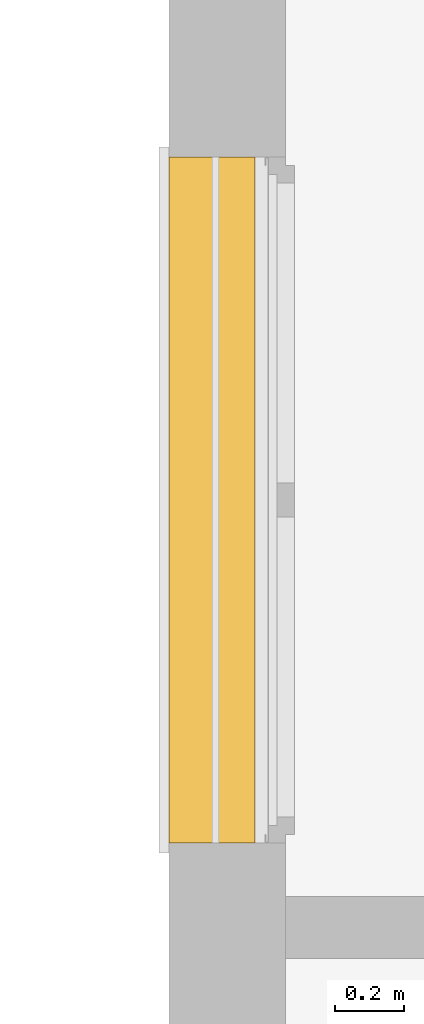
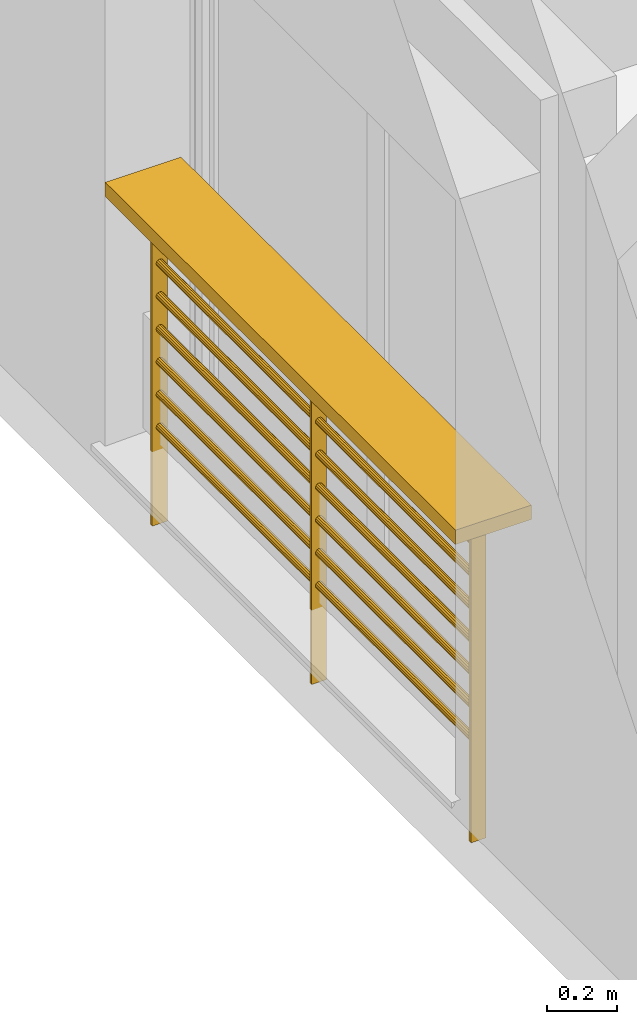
# One storey, part 119 of 171: 1 railing.
"""IFC2X3 building model written with IfcOpenShell, lengths in millimetres."""

from ifc_helpers import new_model, entity, si_unit, converted_unit, derived_unit, money_unit, direction, frame, origin_with_axes, place, context, subcontext, project, spatial, faceted_brep, source, transform, mapped, type_object, element, save


model = new_model("IFC2X3")

# Units and contexts
model_context = context("Model", 3, precision=0.01, world=origin_with_axes(), true_north=direction((0.0, 1.0)))
body_context = subcontext(model_context, "Body", "Model", "MODEL_VIEW")
ifc_project = project(units=[si_unit("LENGTHUNIT", "METRE", prefix="MILLI"), si_unit("AREAUNIT", "SQUARE_METRE"), si_unit("VOLUMEUNIT", "CUBIC_METRE"), converted_unit("PLANEANGLEUNIT", "DEGREE", entity("IfcPlaneAngleMeasure", 0.0174532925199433), si_unit("PLANEANGLEUNIT", "RADIAN"), dimensions=[0, 0, 0, 0, 0, 0, 0]), money_unit("USD"), converted_unit("TIMEUNIT", "Year", entity("IfcTimeMeasure", 31557600.0), si_unit("TIMEUNIT", "SECOND"), dimensions=[0, 0, 1, 0, 0, 0, 0]), si_unit("MASSUNIT", "GRAM", prefix="KILO"), si_unit("THERMODYNAMICTEMPERATUREUNIT", "DEGREE_CELSIUS"), si_unit("LUMINOUSINTENSITYUNIT", "LUMEN"), si_unit("ENERGYUNIT", "JOULE", prefix="MEGA"), derived_unit("THERMALCONDUCTANCEUNIT", [(si_unit("POWERUNIT", "WATT"), 1), (si_unit("LENGTHUNIT", "METRE"), -1), (si_unit("THERMODYNAMICTEMPERATUREUNIT", "KELVIN"), -1)]), derived_unit("SPECIFICHEATCAPACITYUNIT", [(si_unit("ENERGYUNIT", "JOULE"), 1), (si_unit("MASSUNIT", "GRAM", prefix="KILO"), -1), (si_unit("THERMODYNAMICTEMPERATUREUNIT", "KELVIN"), -1)]), derived_unit("MASSDENSITYUNIT", [(si_unit("MASSUNIT", "GRAM", prefix="KILO"), 1), (si_unit("VOLUMEUNIT", "CUBIC_METRE"), -1)])], contexts=[model_context])

# Site, building, storey
site_placement = place(None, origin_with_axes())
site = spatial("IfcSite", under=ifc_project, at=site_placement, Name="Site", CompositionType="ELEMENT")
building_placement = place(site_placement, origin_with_axes())
building = spatial("IfcBuilding", under=site, at=building_placement, Name="Bâtiment", CompositionType="ELEMENT")
storey_placement = place(building_placement, frame((0.0, 0.0, 3000.0), z_axis=(0.0, 0.0, 1.0), x_axis=(1.0, 0.0, 0.0)))
storey = spatial("IfcBuildingStorey", under=building, at=storey_placement, Name="rdc", CompositionType="ELEMENT", Elevation=3000.0)

# Railing
railing_type = type_object("IfcRailingType", Name="Cadre avec câble 01 20", PredefinedType="NOTDEFINED")
shared_shape = source(origin_with_axes(), body_context, "Body", "Brep", [
    faceted_brep([(0.0, 125.0, 950.0), (0.0, -125.0, 950.0), (0.0, -125.0, 1000.0), (0.0, 125.0, 1000.0), (1999.999999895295, 125.0, 950.0), (1999.999999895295, -125.0, 950.0), (1999.999999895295, -125.0, 1000.0), (1999.999999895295, 125.0, 1000.0)], [[[0, 1, 2, 3]], [[0, 4, 5, 1]], [[1, 5, 6, 2]], [[3, 2, 6, 7]], [[4, 0, 3, 7]], [[5, 4, 7, 6]]]),
    faceted_brep([(84.99999999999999, -25.0, -176.0), (95.0, -25.0, -176.0), (95.0, -25.0, 950.0), (84.99999999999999, -25.0, 950.0), (84.99999999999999, 25.0, -176.0), (95.0, 25.0, -176.0), (95.0, 25.0, 950.0), (84.99999999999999, 25.0, 950.0)], [[[0, 1, 2, 3]], [[0, 4, 5, 1]], [[1, 5, 6, 2]], [[3, 2, 6, 7]], [[4, 0, 3, 7]], [[5, 4, 7, 6]]]),
    faceted_brep([(994.9999999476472, -25.0, -176.0), (1004.999999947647, -25.0, -176.0), (1004.999999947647, -25.0, 950.0), (994.9999999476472, -25.0, 950.0), (994.9999999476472, 25.0, -176.0), (1004.999999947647, 25.0, -176.0), (1004.999999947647, 25.0, 950.0), (994.9999999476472, 25.0, 950.0)], [[[0, 1, 2, 3]], [[0, 4, 5, 1]], [[1, 5, 6, 2]], [[3, 2, 6, 7]], [[4, 0, 3, 7]], [[5, 4, 7, 6]]]),
    faceted_brep([(1904.999999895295, -25.0, -176.0), (1914.999999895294, -25.0, -176.0), (1914.999999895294, -25.0, 950.0), (1904.999999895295, -25.0, 950.0), (1904.999999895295, 25.0, -176.0), (1914.999999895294, 25.0, -176.0), (1914.999999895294, 25.0, 950.0), (1904.999999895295, 25.0, 950.0)], [[[0, 1, 2, 3]], [[0, 4, 5, 1]], [[1, 5, 6, 2]], [[3, 2, 6, 7]], [[4, 0, 3, 7]], [[5, 4, 7, 6]]]),
    faceted_brep([(994.9999999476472, 10.82531754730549, 168.7500000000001), (994.9999999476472, 12.5, 162.5000000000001), (95.0, 12.5, 162.5), (95.0, 10.82531754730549, 168.75), (994.9999999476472, 10.82531754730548, 156.2500000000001), (994.9999999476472, 6.250000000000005, 173.3253175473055), (994.9999999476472, 0.0, 175.0000000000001), (994.9999999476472, -6.249999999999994, 173.3253175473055), (994.9999999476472, -10.82531754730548, 168.7500000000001), (994.9999999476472, -12.5, 162.5000000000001), (994.9999999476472, -10.82531754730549, 156.2500000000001), (994.9999999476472, -6.250000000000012, 151.6746824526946), (994.9999999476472, 0.0, 150.0000000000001), (994.9999999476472, 6.249999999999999, 151.6746824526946), (95.0, 10.82531754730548, 156.25), (95.0, 6.249999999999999, 151.6746824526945), (95.0, 0.0, 150.0), (95.0, -6.250000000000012, 151.6746824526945), (95.0, -10.82531754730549, 156.25), (95.0, -12.5, 162.5), (95.0, -10.82531754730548, 168.75), (95.0, -6.249999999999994, 173.3253175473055), (95.0, 0.0, 175.0), (95.0, 6.250000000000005, 173.3253175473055)], [[[0, 1, 2, 3]], [[4, 1, 0, 5, 6, 7, 8, 9, 10, 11, 12, 13]], [[1, 4, 14, 2]], [[3, 2, 14, 15, 16, 17, 18, 19, 20, 21, 22, 23]], [[5, 0, 3, 23]], [[6, 5, 23, 22]], [[7, 6, 22, 21]], [[8, 7, 21, 20]], [[9, 8, 20, 19]], [[10, 9, 19, 18]], [[11, 10, 18, 17]], [[12, 11, 17, 16]], [[13, 12, 16, 15]], [[4, 13, 15, 14]]]),
    faceted_brep([(1004.999999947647, 10.82531754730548, 156.2500000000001), (1004.999999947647, 12.5, 162.5000000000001), (1904.999999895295, 12.5, 162.5000000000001), (1904.999999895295, 10.82531754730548, 156.2500000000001), (1004.999999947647, 10.82531754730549, 168.7500000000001), (1004.999999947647, 6.249999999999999, 151.6746824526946), (1004.999999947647, 0.0, 150.0000000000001), (1004.999999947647, -6.250000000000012, 151.6746824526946), (1004.999999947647, -10.82531754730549, 156.2500000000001), (1004.999999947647, -12.5, 162.5000000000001), (1004.999999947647, -10.82531754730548, 168.7500000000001), (1004.999999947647, -6.249999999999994, 173.3253175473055), (1004.999999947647, 0.0, 175.0000000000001), (1004.999999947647, 6.250000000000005, 173.3253175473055), (1904.999999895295, 10.82531754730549, 168.7500000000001), (1904.999999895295, 6.250000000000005, 173.3253175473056), (1904.999999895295, 0.0, 175.0000000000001), (1904.999999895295, -6.249999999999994, 173.3253175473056), (1904.999999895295, -10.82531754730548, 168.7500000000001), (1904.999999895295, -12.5, 162.5000000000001), (1904.999999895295, -10.82531754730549, 156.2500000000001), (1904.999999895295, -6.250000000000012, 151.6746824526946), (1904.999999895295, 0.0, 150.0000000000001), (1904.999999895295, 6.249999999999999, 151.6746824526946)], [[[0, 1, 2, 3]], [[4, 1, 0, 5, 6, 7, 8, 9, 10, 11, 12, 13]], [[1, 4, 14, 2]], [[3, 2, 14, 15, 16, 17, 18, 19, 20, 21, 22, 23]], [[5, 0, 3, 23]], [[6, 5, 23, 22]], [[7, 6, 22, 21]], [[8, 7, 21, 20]], [[9, 8, 20, 19]], [[10, 9, 19, 18]], [[11, 10, 18, 17]], [[12, 11, 17, 16]], [[13, 12, 16, 15]], [[4, 13, 15, 14]]]),
    faceted_brep([(994.9999999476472, 10.82531754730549, 283.0357142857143), (994.9999999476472, 12.5, 276.7857142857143), (95.0, 12.5, 276.7857142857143), (95.0, 10.82531754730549, 283.0357142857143), (994.9999999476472, 10.82531754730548, 270.5357142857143), (994.9999999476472, 6.250000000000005, 287.6110318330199), (994.9999999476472, 0.0, 289.2857142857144), (994.9999999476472, -6.249999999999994, 287.6110318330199), (994.9999999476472, -10.82531754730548, 283.0357142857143), (994.9999999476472, -12.5, 276.7857142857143), (994.9999999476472, -10.82531754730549, 270.5357142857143), (994.9999999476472, -6.250000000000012, 265.9603967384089), (994.9999999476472, 0.0, 264.2857142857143), (994.9999999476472, 6.249999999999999, 265.9603967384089), (95.0, 10.82531754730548, 270.5357142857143), (95.0, 6.249999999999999, 265.9603967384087), (95.0, 0.0, 264.2857142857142), (95.0, -6.250000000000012, 265.9603967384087), (95.0, -10.82531754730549, 270.5357142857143), (95.0, -12.5, 276.7857142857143), (95.0, -10.82531754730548, 283.0357142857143), (95.0, -6.249999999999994, 287.6110318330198), (95.0, 0.0, 289.2857142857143), (95.0, 6.250000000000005, 287.6110318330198)], [[[0, 1, 2, 3]], [[4, 1, 0, 5, 6, 7, 8, 9, 10, 11, 12, 13]], [[1, 4, 14, 2]], [[3, 2, 14, 15, 16, 17, 18, 19, 20, 21, 22, 23]], [[5, 0, 3, 23]], [[6, 5, 23, 22]], [[7, 6, 22, 21]], [[8, 7, 21, 20]], [[9, 8, 20, 19]], [[10, 9, 19, 18]], [[11, 10, 18, 17]], [[12, 11, 17, 16]], [[13, 12, 16, 15]], [[4, 13, 15, 14]]]),
    faceted_brep([(1004.999999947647, 10.82531754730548, 270.5357142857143), (1004.999999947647, 12.5, 276.7857142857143), (1904.999999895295, 12.5, 276.7857142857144), (1904.999999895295, 10.82531754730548, 270.5357142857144), (1004.999999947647, 10.82531754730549, 283.0357142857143), (1004.999999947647, 6.249999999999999, 265.9603967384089), (1004.999999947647, 0.0, 264.2857142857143), (1004.999999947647, -6.250000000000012, 265.9603967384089), (1004.999999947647, -10.82531754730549, 270.5357142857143), (1004.999999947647, -12.5, 276.7857142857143), (1004.999999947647, -10.82531754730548, 283.0357142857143), (1004.999999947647, -6.249999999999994, 287.6110318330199), (1004.999999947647, 0.0, 289.2857142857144), (1004.999999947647, 6.250000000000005, 287.6110318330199), (1904.999999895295, 10.82531754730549, 283.0357142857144), (1904.999999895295, 6.250000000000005, 287.6110318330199), (1904.999999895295, 0.0, 289.2857142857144), (1904.999999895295, -6.249999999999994, 287.6110318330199), (1904.999999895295, -10.82531754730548, 283.0357142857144), (1904.999999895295, -12.5, 276.7857142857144), (1904.999999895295, -10.82531754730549, 270.5357142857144), (1904.999999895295, -6.250000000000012, 265.9603967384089), (1904.999999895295, 0.0, 264.2857142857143), (1904.999999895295, 6.249999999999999, 265.9603967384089)], [[[0, 1, 2, 3]], [[4, 1, 0, 5, 6, 7, 8, 9, 10, 11, 12, 13]], [[1, 4, 14, 2]], [[3, 2, 14, 15, 16, 17, 18, 19, 20, 21, 22, 23]], [[5, 0, 3, 23]], [[6, 5, 23, 22]], [[7, 6, 22, 21]], [[8, 7, 21, 20]], [[9, 8, 20, 19]], [[10, 9, 19, 18]], [[11, 10, 18, 17]], [[12, 11, 17, 16]], [[13, 12, 16, 15]], [[4, 13, 15, 14]]]),
    faceted_brep([(994.9999999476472, 10.82531754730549, 397.3214285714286), (994.9999999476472, 12.5, 391.0714285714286), (95.0, 12.5, 391.0714285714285), (95.0, 10.82531754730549, 397.3214285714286), (994.9999999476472, 10.82531754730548, 384.8214285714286), (994.9999999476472, 6.250000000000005, 401.896746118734), (994.9999999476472, 0.0, 403.5714285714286), (994.9999999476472, -6.249999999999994, 401.896746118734), (994.9999999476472, -10.82531754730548, 397.3214285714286), (994.9999999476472, -12.5, 391.0714285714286), (994.9999999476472, -10.82531754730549, 384.8214285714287), (994.9999999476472, -6.250000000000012, 380.2461110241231), (994.9999999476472, 0.0, 378.5714285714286), (994.9999999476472, 6.249999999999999, 380.2461110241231), (95.0, 10.82531754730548, 384.8214285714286), (95.0, 6.249999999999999, 380.2461110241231), (95.0, 0.0, 378.5714285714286), (95.0, -6.250000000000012, 380.2461110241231), (95.0, -10.82531754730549, 384.8214285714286), (95.0, -12.5, 391.0714285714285), (95.0, -10.82531754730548, 397.3214285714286), (95.0, -6.249999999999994, 401.896746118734), (95.0, 0.0, 403.5714285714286), (95.0, 6.250000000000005, 401.896746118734)], [[[0, 1, 2, 3]], [[4, 1, 0, 5, 6, 7, 8, 9, 10, 11, 12, 13]], [[1, 4, 14, 2]], [[3, 2, 14, 15, 16, 17, 18, 19, 20, 21, 22, 23]], [[5, 0, 3, 23]], [[6, 5, 23, 22]], [[7, 6, 22, 21]], [[8, 7, 21, 20]], [[9, 8, 20, 19]], [[10, 9, 19, 18]], [[11, 10, 18, 17]], [[12, 11, 17, 16]], [[13, 12, 16, 15]], [[4, 13, 15, 14]]]),
    faceted_brep([(1004.999999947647, 10.82531754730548, 384.8214285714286), (1004.999999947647, 12.5, 391.0714285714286), (1904.999999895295, 12.5, 391.0714285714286), (1904.999999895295, 10.82531754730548, 384.8214285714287), (1004.999999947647, 10.82531754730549, 397.3214285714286), (1004.999999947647, 6.249999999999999, 380.2461110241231), (1004.999999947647, 0.0, 378.5714285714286), (1004.999999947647, -6.250000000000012, 380.2461110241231), (1004.999999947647, -10.82531754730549, 384.8214285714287), (1004.999999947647, -12.5, 391.0714285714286), (1004.999999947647, -10.82531754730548, 397.3214285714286), (1004.999999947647, -6.249999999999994, 401.896746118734), (1004.999999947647, 0.0, 403.5714285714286), (1004.999999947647, 6.250000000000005, 401.896746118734), (1904.999999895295, 10.82531754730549, 397.3214285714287), (1904.999999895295, 6.250000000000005, 401.8967461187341), (1904.999999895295, 0.0, 403.5714285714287), (1904.999999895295, -6.249999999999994, 401.8967461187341), (1904.999999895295, -10.82531754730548, 397.3214285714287), (1904.999999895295, -12.5, 391.0714285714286), (1904.999999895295, -10.82531754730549, 384.8214285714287), (1904.999999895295, -6.250000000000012, 380.2461110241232), (1904.999999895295, 0.0, 378.5714285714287), (1904.999999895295, 6.249999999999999, 380.2461110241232)], [[[0, 1, 2, 3]], [[4, 1, 0, 5, 6, 7, 8, 9, 10, 11, 12, 13]], [[1, 4, 14, 2]], [[3, 2, 14, 15, 16, 17, 18, 19, 20, 21, 22, 23]], [[5, 0, 3, 23]], [[6, 5, 23, 22]], [[7, 6, 22, 21]], [[8, 7, 21, 20]], [[9, 8, 20, 19]], [[10, 9, 19, 18]], [[11, 10, 18, 17]], [[12, 11, 17, 16]], [[13, 12, 16, 15]], [[4, 13, 15, 14]]]),
    faceted_brep([(994.9999999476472, 10.82531754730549, 511.6071428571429), (994.9999999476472, 12.5, 505.3571428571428), (95.0, 12.5, 505.3571428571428), (95.0, 10.82531754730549, 511.6071428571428), (994.9999999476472, 10.82531754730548, 499.1071428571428), (994.9999999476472, 6.250000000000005, 516.1824604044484), (994.9999999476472, 0.0, 517.8571428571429), (994.9999999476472, -6.249999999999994, 516.1824604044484), (994.9999999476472, -10.82531754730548, 511.6071428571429), (994.9999999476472, -12.5, 505.3571428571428), (994.9999999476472, -10.82531754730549, 499.1071428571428), (994.9999999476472, -6.250000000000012, 494.5318253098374), (994.9999999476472, 0.0, 492.8571428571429), (994.9999999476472, 6.249999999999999, 494.5318253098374), (95.0, 10.82531754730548, 499.1071428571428), (95.0, 6.249999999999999, 494.5318253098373), (95.0, 0.0, 492.8571428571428), (95.0, -6.250000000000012, 494.5318253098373), (95.0, -10.82531754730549, 499.1071428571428), (95.0, -12.5, 505.3571428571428), (95.0, -10.82531754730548, 511.6071428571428), (95.0, -6.249999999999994, 516.1824604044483), (95.0, 0.0, 517.8571428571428), (95.0, 6.250000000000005, 516.1824604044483)], [[[0, 1, 2, 3]], [[4, 1, 0, 5, 6, 7, 8, 9, 10, 11, 12, 13]], [[1, 4, 14, 2]], [[3, 2, 14, 15, 16, 17, 18, 19, 20, 21, 22, 23]], [[5, 0, 3, 23]], [[6, 5, 23, 22]], [[7, 6, 22, 21]], [[8, 7, 21, 20]], [[9, 8, 20, 19]], [[10, 9, 19, 18]], [[11, 10, 18, 17]], [[12, 11, 17, 16]], [[13, 12, 16, 15]], [[4, 13, 15, 14]]]),
    faceted_brep([(1004.999999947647, 10.82531754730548, 499.1071428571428), (1004.999999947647, 12.5, 505.3571428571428), (1904.999999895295, 12.5, 505.3571428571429), (1904.999999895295, 10.82531754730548, 499.1071428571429), (1004.999999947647, 10.82531754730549, 511.6071428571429), (1004.999999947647, 6.249999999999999, 494.5318253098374), (1004.999999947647, 0.0, 492.8571428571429), (1004.999999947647, -6.250000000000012, 494.5318253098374), (1004.999999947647, -10.82531754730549, 499.1071428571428), (1004.999999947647, -12.5, 505.3571428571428), (1004.999999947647, -10.82531754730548, 511.6071428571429), (1004.999999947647, -6.249999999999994, 516.1824604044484), (1004.999999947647, 0.0, 517.8571428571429), (1004.999999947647, 6.250000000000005, 516.1824604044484), (1904.999999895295, 10.82531754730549, 511.6071428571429), (1904.999999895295, 6.250000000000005, 516.1824604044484), (1904.999999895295, 0.0, 517.8571428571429), (1904.999999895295, -6.249999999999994, 516.1824604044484), (1904.999999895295, -10.82531754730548, 511.6071428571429), (1904.999999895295, -12.5, 505.3571428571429), (1904.999999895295, -10.82531754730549, 499.1071428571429), (1904.999999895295, -6.250000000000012, 494.5318253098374), (1904.999999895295, 0.0, 492.8571428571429), (1904.999999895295, 6.249999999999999, 494.5318253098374)], [[[0, 1, 2, 3]], [[4, 1, 0, 5, 6, 7, 8, 9, 10, 11, 12, 13]], [[1, 4, 14, 2]], [[3, 2, 14, 15, 16, 17, 18, 19, 20, 21, 22, 23]], [[5, 0, 3, 23]], [[6, 5, 23, 22]], [[7, 6, 22, 21]], [[8, 7, 21, 20]], [[9, 8, 20, 19]], [[10, 9, 19, 18]], [[11, 10, 18, 17]], [[12, 11, 17, 16]], [[13, 12, 16, 15]], [[4, 13, 15, 14]]]),
    faceted_brep([(994.9999999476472, 10.82531754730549, 625.8928571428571), (994.9999999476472, 12.5, 619.6428571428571), (95.0, 12.5, 619.642857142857), (95.0, 10.82531754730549, 625.892857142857), (994.9999999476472, 10.82531754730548, 613.3928571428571), (994.9999999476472, 6.250000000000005, 630.4681746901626), (994.9999999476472, 0.0, 632.1428571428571), (994.9999999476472, -6.249999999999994, 630.4681746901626), (994.9999999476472, -10.82531754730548, 625.8928571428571), (994.9999999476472, -12.5, 619.6428571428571), (994.9999999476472, -10.82531754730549, 613.3928571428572), (994.9999999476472, -6.250000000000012, 608.8175395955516), (994.9999999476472, 0.0, 607.1428571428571), (994.9999999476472, 6.249999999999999, 608.8175395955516), (95.0, 10.82531754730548, 613.3928571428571), (95.0, 6.249999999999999, 608.8175395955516), (95.0, 0.0, 607.1428571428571), (95.0, -6.250000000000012, 608.8175395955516), (95.0, -10.82531754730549, 613.3928571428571), (95.0, -12.5, 619.642857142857), (95.0, -10.82531754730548, 625.892857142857), (95.0, -6.249999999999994, 630.4681746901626), (95.0, 0.0, 632.1428571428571), (95.0, 6.250000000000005, 630.4681746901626)], [[[0, 1, 2, 3]], [[4, 1, 0, 5, 6, 7, 8, 9, 10, 11, 12, 13]], [[1, 4, 14, 2]], [[3, 2, 14, 15, 16, 17, 18, 19, 20, 21, 22, 23]], [[5, 0, 3, 23]], [[6, 5, 23, 22]], [[7, 6, 22, 21]], [[8, 7, 21, 20]], [[9, 8, 20, 19]], [[10, 9, 19, 18]], [[11, 10, 18, 17]], [[12, 11, 17, 16]], [[13, 12, 16, 15]], [[4, 13, 15, 14]]]),
    faceted_brep([(1004.999999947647, 10.82531754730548, 613.3928571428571), (1004.999999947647, 12.5, 619.6428571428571), (1904.999999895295, 12.5, 619.6428571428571), (1904.999999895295, 10.82531754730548, 613.3928571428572), (1004.999999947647, 10.82531754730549, 625.8928571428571), (1004.999999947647, 6.249999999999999, 608.8175395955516), (1004.999999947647, 0.0, 607.1428571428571), (1004.999999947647, -6.250000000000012, 608.8175395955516), (1004.999999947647, -10.82531754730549, 613.3928571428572), (1004.999999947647, -12.5, 619.6428571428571), (1004.999999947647, -10.82531754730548, 625.8928571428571), (1004.999999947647, -6.249999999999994, 630.4681746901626), (1004.999999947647, 0.0, 632.1428571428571), (1004.999999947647, 6.250000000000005, 630.4681746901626), (1904.999999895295, 10.82531754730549, 625.8928571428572), (1904.999999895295, 6.250000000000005, 630.4681746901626), (1904.999999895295, 0.0, 632.1428571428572), (1904.999999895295, -6.249999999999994, 630.4681746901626), (1904.999999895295, -10.82531754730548, 625.8928571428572), (1904.999999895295, -12.5, 619.6428571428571), (1904.999999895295, -10.82531754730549, 613.3928571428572), (1904.999999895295, -6.250000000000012, 608.8175395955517), (1904.999999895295, 0.0, 607.1428571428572), (1904.999999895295, 6.249999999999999, 608.8175395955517)], [[[0, 1, 2, 3]], [[4, 1, 0, 5, 6, 7, 8, 9, 10, 11, 12, 13]], [[1, 4, 14, 2]], [[3, 2, 14, 15, 16, 17, 18, 19, 20, 21, 22, 23]], [[5, 0, 3, 23]], [[6, 5, 23, 22]], [[7, 6, 22, 21]], [[8, 7, 21, 20]], [[9, 8, 20, 19]], [[10, 9, 19, 18]], [[11, 10, 18, 17]], [[12, 11, 17, 16]], [[13, 12, 16, 15]], [[4, 13, 15, 14]]]),
    faceted_brep([(994.9999999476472, 10.82531754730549, 740.1785714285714), (994.9999999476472, 12.5, 733.9285714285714), (95.0, 12.5, 733.9285714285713), (95.0, 10.82531754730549, 740.1785714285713), (994.9999999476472, 10.82531754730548, 727.6785714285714), (994.9999999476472, 6.250000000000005, 744.7538889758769), (994.9999999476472, 0.0, 746.4285714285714), (994.9999999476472, -6.249999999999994, 744.7538889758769), (994.9999999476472, -10.82531754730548, 740.1785714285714), (994.9999999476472, -12.5, 733.9285714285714), (994.9999999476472, -10.82531754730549, 727.6785714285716), (994.9999999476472, -6.250000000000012, 723.1032538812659), (994.9999999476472, 0.0, 721.4285714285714), (994.9999999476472, 6.249999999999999, 723.1032538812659), (95.0, 10.82531754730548, 727.6785714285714), (95.0, 6.249999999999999, 723.1032538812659), (95.0, 0.0, 721.4285714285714), (95.0, -6.250000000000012, 723.1032538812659), (95.0, -10.82531754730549, 727.6785714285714), (95.0, -12.5, 733.9285714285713), (95.0, -10.82531754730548, 740.1785714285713), (95.0, -6.249999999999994, 744.7538889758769), (95.0, 0.0, 746.4285714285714), (95.0, 6.250000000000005, 744.7538889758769)], [[[0, 1, 2, 3]], [[4, 1, 0, 5, 6, 7, 8, 9, 10, 11, 12, 13]], [[1, 4, 14, 2]], [[3, 2, 14, 15, 16, 17, 18, 19, 20, 21, 22, 23]], [[5, 0, 3, 23]], [[6, 5, 23, 22]], [[7, 6, 22, 21]], [[8, 7, 21, 20]], [[9, 8, 20, 19]], [[10, 9, 19, 18]], [[11, 10, 18, 17]], [[12, 11, 17, 16]], [[13, 12, 16, 15]], [[4, 13, 15, 14]]]),
    faceted_brep([(1004.999999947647, 10.82531754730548, 727.6785714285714), (1004.999999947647, 12.5, 733.9285714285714), (1904.999999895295, 12.5, 733.9285714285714), (1904.999999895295, 10.82531754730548, 727.6785714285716), (1004.999999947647, 10.82531754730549, 740.1785714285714), (1004.999999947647, 6.249999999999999, 723.1032538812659), (1004.999999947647, 0.0, 721.4285714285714), (1004.999999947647, -6.250000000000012, 723.1032538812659), (1004.999999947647, -10.82531754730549, 727.6785714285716), (1004.999999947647, -12.5, 733.9285714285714), (1004.999999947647, -10.82531754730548, 740.1785714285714), (1004.999999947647, -6.249999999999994, 744.7538889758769), (1004.999999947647, 0.0, 746.4285714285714), (1004.999999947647, 6.250000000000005, 744.7538889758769), (1904.999999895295, 10.82531754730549, 740.1785714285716), (1904.999999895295, 6.250000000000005, 744.753888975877), (1904.999999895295, 0.0, 746.4285714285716), (1904.999999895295, -6.249999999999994, 744.753888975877), (1904.999999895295, -10.82531754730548, 740.1785714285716), (1904.999999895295, -12.5, 733.9285714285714), (1904.999999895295, -10.82531754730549, 727.6785714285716), (1904.999999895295, -6.250000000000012, 723.103253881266), (1904.999999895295, 0.0, 721.4285714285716), (1904.999999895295, 6.249999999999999, 723.103253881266)], [[[0, 1, 2, 3]], [[4, 1, 0, 5, 6, 7, 8, 9, 10, 11, 12, 13]], [[1, 4, 14, 2]], [[3, 2, 14, 15, 16, 17, 18, 19, 20, 21, 22, 23]], [[5, 0, 3, 23]], [[6, 5, 23, 22]], [[7, 6, 22, 21]], [[8, 7, 21, 20]], [[9, 8, 20, 19]], [[10, 9, 19, 18]], [[11, 10, 18, 17]], [[12, 11, 17, 16]], [[13, 12, 16, 15]], [[4, 13, 15, 14]]]),
    faceted_brep([(994.9999999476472, 10.82531754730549, 854.4642857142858), (994.9999999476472, 12.5, 848.2142857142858), (95.0, 12.5, 848.2142857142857), (95.0, 10.82531754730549, 854.4642857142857), (994.9999999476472, 10.82531754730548, 841.9642857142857), (994.9999999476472, 6.250000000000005, 859.0396032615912), (994.9999999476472, 0.0, 860.7142857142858), (994.9999999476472, -6.249999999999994, 859.0396032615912), (994.9999999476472, -10.82531754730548, 854.4642857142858), (994.9999999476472, -12.5, 848.2142857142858), (994.9999999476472, -10.82531754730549, 841.9642857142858), (994.9999999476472, -6.250000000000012, 837.3889681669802), (994.9999999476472, 0.0, 835.7142857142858), (994.9999999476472, 6.249999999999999, 837.3889681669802), (95.0, 10.82531754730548, 841.9642857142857), (95.0, 6.249999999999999, 837.3889681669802), (95.0, 0.0, 835.7142857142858), (95.0, -6.250000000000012, 837.3889681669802), (95.0, -10.82531754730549, 841.9642857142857), (95.0, -12.5, 848.2142857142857), (95.0, -10.82531754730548, 854.4642857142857), (95.0, -6.249999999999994, 859.0396032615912), (95.0, 0.0, 860.7142857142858), (95.0, 6.250000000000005, 859.0396032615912)], [[[0, 1, 2, 3]], [[4, 1, 0, 5, 6, 7, 8, 9, 10, 11, 12, 13]], [[1, 4, 14, 2]], [[3, 2, 14, 15, 16, 17, 18, 19, 20, 21, 22, 23]], [[5, 0, 3, 23]], [[6, 5, 23, 22]], [[7, 6, 22, 21]], [[8, 7, 21, 20]], [[9, 8, 20, 19]], [[10, 9, 19, 18]], [[11, 10, 18, 17]], [[12, 11, 17, 16]], [[13, 12, 16, 15]], [[4, 13, 15, 14]]]),
    faceted_brep([(1004.999999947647, 10.82531754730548, 841.9642857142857), (1004.999999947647, 12.5, 848.2142857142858), (1904.999999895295, 12.5, 848.2142857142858), (1904.999999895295, 10.82531754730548, 841.9642857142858), (1004.999999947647, 10.82531754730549, 854.4642857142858), (1004.999999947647, 6.249999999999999, 837.3889681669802), (1004.999999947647, 0.0, 835.7142857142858), (1004.999999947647, -6.250000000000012, 837.3889681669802), (1004.999999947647, -10.82531754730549, 841.9642857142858), (1004.999999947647, -12.5, 848.2142857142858), (1004.999999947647, -10.82531754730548, 854.4642857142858), (1004.999999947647, -6.249999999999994, 859.0396032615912), (1004.999999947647, 0.0, 860.7142857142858), (1004.999999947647, 6.250000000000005, 859.0396032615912), (1904.999999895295, 10.82531754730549, 854.4642857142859), (1904.999999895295, 6.250000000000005, 859.0396032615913), (1904.999999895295, 0.0, 860.7142857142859), (1904.999999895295, -6.249999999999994, 859.0396032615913), (1904.999999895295, -10.82531754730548, 854.4642857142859), (1904.999999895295, -12.5, 848.2142857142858), (1904.999999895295, -10.82531754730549, 841.9642857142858), (1904.999999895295, -6.250000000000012, 837.3889681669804), (1904.999999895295, 0.0, 835.7142857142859), (1904.999999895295, 6.249999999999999, 837.3889681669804)], [[[0, 1, 2, 3]], [[4, 1, 0, 5, 6, 7, 8, 9, 10, 11, 12, 13]], [[1, 4, 14, 2]], [[3, 2, 14, 15, 16, 17, 18, 19, 20, 21, 22, 23]], [[5, 0, 3, 23]], [[6, 5, 23, 22]], [[7, 6, 22, 21]], [[8, 7, 21, 20]], [[9, 8, 20, 19]], [[10, 9, 19, 18]], [[11, 10, 18, 17]], [[12, 11, 17, 16]], [[13, 12, 16, 15]], [[4, 13, 15, 14]]]),
])
railing_placement = place(storey_placement, frame((2216759.260670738, -632276.9231249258, 0.0), z_axis=(0.0, 0.0, 1.0), x_axis=(0.0, 1.0, 0.0)))
element("IfcRailing", 1, at=railing_placement, inside=storey, type_object=railing_type, Name="Obj.-002", PredefinedType="NOTDEFINED", context=body_context, shape_type="MappedRepresentation", body=[
    mapped(shared_shape, transform((0.0, 0.0, 0.0))),
])

save(model, "model.ifc")
